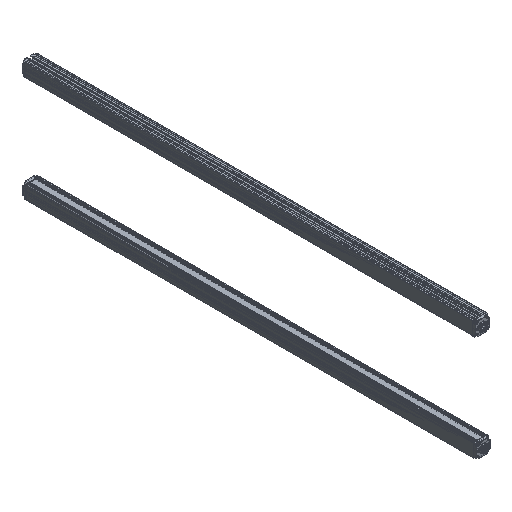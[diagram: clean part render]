
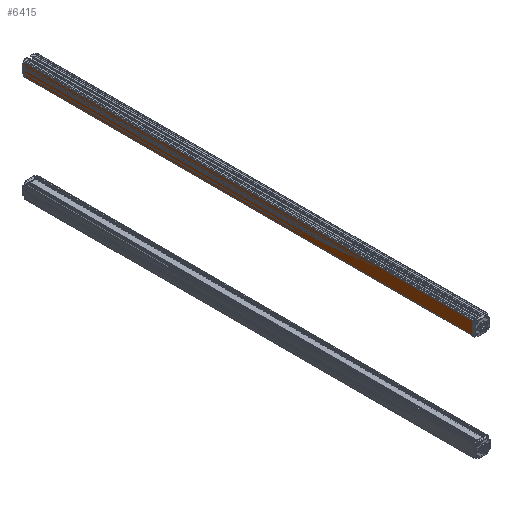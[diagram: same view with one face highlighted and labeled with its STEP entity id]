
A CAD part, isometric view. The second image highlights one B-rep face of the part: STEP entity #6415.
In plain terms, the highlighted planar face has unit normal (-1, 0, -0.009) as drawn and (-1, 0, 0) by its records, which use the part's own axes.
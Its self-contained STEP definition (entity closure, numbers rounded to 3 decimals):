
#138 = LINE ( 'NONE', #11324, #5466 ) ;
#892 = CARTESIAN_POINT ( 'NONE',  ( -15., 970., -16.9 ) ) ;
#2282 = VERTEX_POINT ( 'NONE', #12256 ) ;
#3718 = DIRECTION ( 'NONE',  ( 0., -1., 0. ) ) ;
#3999 = EDGE_CURVE ( 'NONE', #2282, #8076, #7484, .T. ) ;
#4013 = AXIS2_PLACEMENT_3D ( 'NONE', #13242, #4949, #5213 ) ;
#4900 = VECTOR ( 'NONE', #14573, 1000. ) ;
#4949 = DIRECTION ( 'NONE',  ( 1., 0., 0. ) ) ;
#5213 = DIRECTION ( 'NONE',  ( 0., 0., -1. ) ) ;
#5466 = VECTOR ( 'NONE', #5685, 1000. ) ;
#5685 = DIRECTION ( 'NONE',  ( 0., 0., 1. ) ) ;
#6322 = EDGE_CURVE ( 'NONE', #8355, #8713, #11761, .T. ) ;
#6365 = LINE ( 'NONE', #892, #4900 ) ;
#6415 = ADVANCED_FACE ( 'NONE', ( #17688 ), #9483, .F. ) ;
#6745 = EDGE_CURVE ( 'NONE', #8355, #2282, #6365, .T. ) ;
#7279 = CARTESIAN_POINT ( 'NONE',  ( -15., 970., -16.693 ) ) ;
#7351 = ORIENTED_EDGE ( 'NONE', *, *, #15444, .T. ) ;
#7393 = CARTESIAN_POINT ( 'NONE',  ( -15., 0., 10.9 ) ) ;
#7484 = LINE ( 'NONE', #17231, #9382 ) ;
#8076 = VERTEX_POINT ( 'NONE', #7393 ) ;
#8355 = VERTEX_POINT ( 'NONE', #7279 ) ;
#8659 = CARTESIAN_POINT ( 'NONE',  ( -15., 970., -16.693 ) ) ;
#8713 = VERTEX_POINT ( 'NONE', #10054 ) ;
#9382 = VECTOR ( 'NONE', #3718, 1000. ) ;
#9483 = PLANE ( 'NONE',  #4013 ) ;
#10054 = CARTESIAN_POINT ( 'NONE',  ( -15., 0., -16.693 ) ) ;
#10913 = VECTOR ( 'NONE', #14413, 1000. ) ;
#11324 = CARTESIAN_POINT ( 'NONE',  ( -15., 0., -16.9 ) ) ;
#11761 = LINE ( 'NONE', #8659, #10913 ) ;
#12115 = ORIENTED_EDGE ( 'NONE', *, *, #3999, .F. ) ;
#12256 = CARTESIAN_POINT ( 'NONE',  ( -15., 970., 10.9 ) ) ;
#13242 = CARTESIAN_POINT ( 'NONE',  ( -15., 970., -16.9 ) ) ;
#14413 = DIRECTION ( 'NONE',  ( 0., -1., 0. ) ) ;
#14573 = DIRECTION ( 'NONE',  ( 0., 0., 1. ) ) ;
#15141 = ORIENTED_EDGE ( 'NONE', *, *, #6322, .T. ) ;
#15165 = ORIENTED_EDGE ( 'NONE', *, *, #6745, .F. ) ;
#15444 = EDGE_CURVE ( 'NONE', #8713, #8076, #138, .T. ) ;
#16652 = EDGE_LOOP ( 'NONE', ( #15165, #15141, #7351, #12115 ) ) ;
#17231 = CARTESIAN_POINT ( 'NONE',  ( -15., 970., 10.9 ) ) ;
#17688 = FACE_OUTER_BOUND ( 'NONE', #16652, .T. ) ;
